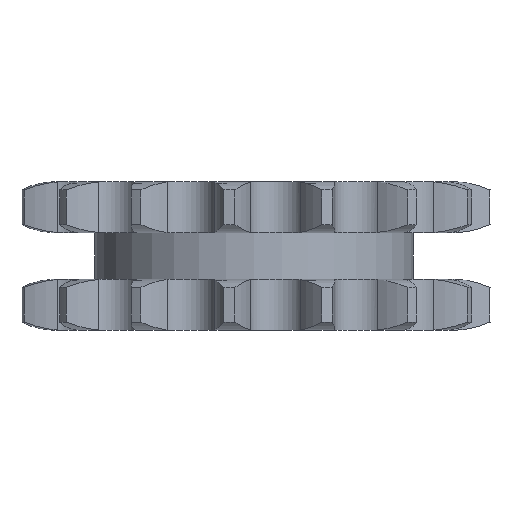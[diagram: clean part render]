
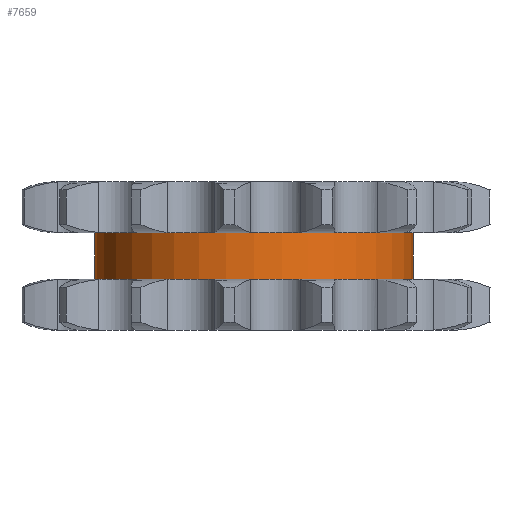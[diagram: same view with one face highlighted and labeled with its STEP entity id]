
A CAD part, left-side view. The second image highlights one B-rep face of the part: STEP entity #7659.
In plain terms, the highlighted cylindrical face has radius 22.542 mm (diameter 45.084 mm), a partial arc.
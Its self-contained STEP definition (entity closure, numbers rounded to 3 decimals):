
#1940=DIRECTION('',(0.,0.,-1.));
#1941=VECTOR('',#1940,6.6);
#1942=CARTESIAN_POINT('',(0.,22.542,3.3));
#1943=LINE('',#1942,#1941);
#1947=CARTESIAN_POINT('',(0.,0.,3.3));
#1948=DIRECTION('',(0.,0.,1.));
#1949=DIRECTION('',(0.,1.,0.));
#1950=AXIS2_PLACEMENT_3D('',#1947,#1948,#1949);
#1955=DIRECTION('',(0.,0.,-1.));
#1956=VECTOR('',#1955,6.6);
#1957=CARTESIAN_POINT('',(0.,-22.542,3.3));
#1958=LINE('',#1957,#1956);
#1962=CARTESIAN_POINT('',(0.,0.,-3.3));
#1963=DIRECTION('',(0.,0.,1.));
#1964=DIRECTION('',(0.,1.,0.));
#1965=AXIS2_PLACEMENT_3D('',#1962,#1963,#1964);
#5279=CARTESIAN_POINT('',(0.,22.542,3.3));
#5280=CARTESIAN_POINT('',(0.,22.542,-3.3));
#5281=VERTEX_POINT('',#5279);
#5282=VERTEX_POINT('',#5280);
#5283=CARTESIAN_POINT('',(0.,-22.542,3.3));
#5284=CARTESIAN_POINT('',(0.,-22.542,-3.3));
#5285=VERTEX_POINT('',#5283);
#5286=VERTEX_POINT('',#5284);
#7647=CARTESIAN_POINT('',(0.,0.,3.63));
#7648=DIRECTION('',(0.,0.,-1.));
#7649=DIRECTION('',(0.,-1.,0.));
#7650=AXIS2_PLACEMENT_3D('',#7647,#7648,#7649);
#7651=CYLINDRICAL_SURFACE('',#7650,22.542);
#7652=ORIENTED_EDGE('',*,*,#7637,.F.);
#7653=ORIENTED_EDGE('',*,*,#7627,.T.);
#7654=ORIENTED_EDGE('',*,*,#7641,.T.);
#7656=ORIENTED_EDGE('',*,*,#7655,.F.);
#7657=EDGE_LOOP('',(#7652,#7653,#7654,#7656));
#7658=FACE_OUTER_BOUND('',#7657,.F.);
#7659=ADVANCED_FACE('',(#7658),#7651,.T.);
#1951=CIRCLE('',#1950,22.542);
#1966=CIRCLE('',#1965,22.542);
#7627=EDGE_CURVE('',#5281,#5285,#1951,.T.);
#7637=EDGE_CURVE('',#5281,#5282,#1943,.T.);
#7641=EDGE_CURVE('',#5285,#5286,#1958,.T.);
#7655=EDGE_CURVE('',#5282,#5286,#1966,.T.);
